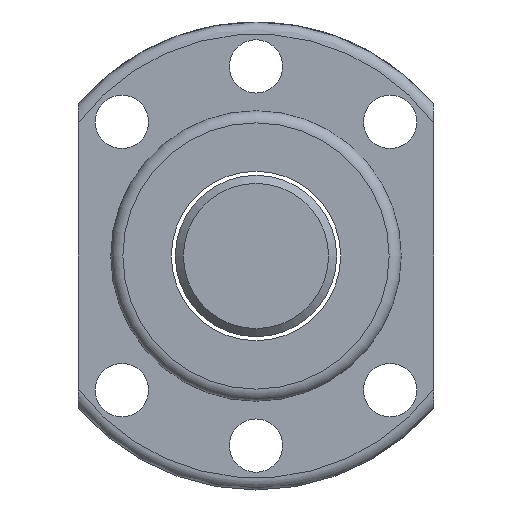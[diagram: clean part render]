
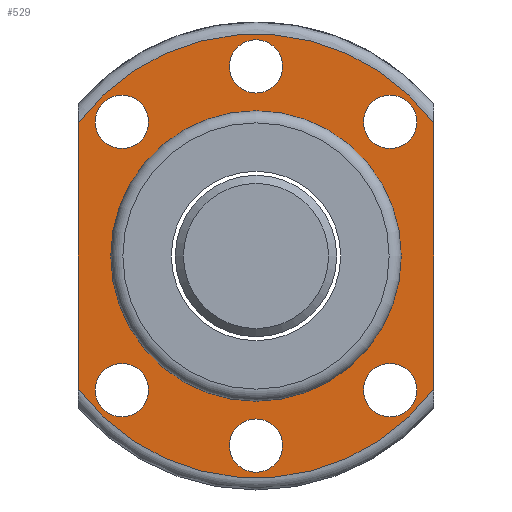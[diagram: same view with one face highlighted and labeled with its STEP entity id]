
A CAD part, left-side view. The second image highlights one B-rep face of the part: STEP entity #529.
In plain terms, the highlighted planar face has unit normal (-1, 0, 0).
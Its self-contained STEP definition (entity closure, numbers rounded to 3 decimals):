
#122=LINE('',#934,#130);
#123=LINE('',#935,#131);
#130=VECTOR('',#719,1000.);
#131=VECTOR('',#720,1000.);
#171=ORIENTED_EDGE('',*,*,#283,.T.);
#172=ORIENTED_EDGE('',*,*,#284,.T.);
#173=ORIENTED_EDGE('',*,*,#285,.T.);
#174=ORIENTED_EDGE('',*,*,#286,.T.);
#175=ORIENTED_EDGE('',*,*,#287,.T.);
#176=ORIENTED_EDGE('',*,*,#288,.T.);
#177=ORIENTED_EDGE('',*,*,#289,.F.);
#178=ORIENTED_EDGE('',*,*,#290,.F.);
#179=ORIENTED_EDGE('',*,*,#265,.T.);
#180=ORIENTED_EDGE('',*,*,#291,.T.);
#181=ORIENTED_EDGE('',*,*,#263,.T.);
#263=EDGE_CURVE('',#323,#322,#366,.T.);
#265=EDGE_CURVE('',#324,#325,#367,.T.);
#283=EDGE_CURVE('',#336,#336,#371,.T.);
#284=EDGE_CURVE('',#337,#337,#372,.T.);
#285=EDGE_CURVE('',#338,#338,#373,.T.);
#286=EDGE_CURVE('',#339,#339,#374,.T.);
#287=EDGE_CURVE('',#340,#340,#375,.T.);
#288=EDGE_CURVE('',#341,#341,#376,.T.);
#289=EDGE_CURVE('',#342,#342,#377,.T.);
#290=EDGE_CURVE('',#324,#322,#122,.T.);
#291=EDGE_CURVE('',#325,#323,#123,.T.);
#322=VERTEX_POINT('',#827);
#323=VERTEX_POINT('',#829);
#324=VERTEX_POINT('',#838);
#325=VERTEX_POINT('',#839);
#336=VERTEX_POINT('',#921);
#337=VERTEX_POINT('',#923);
#338=VERTEX_POINT('',#925);
#339=VERTEX_POINT('',#927);
#340=VERTEX_POINT('',#929);
#341=VERTEX_POINT('',#931);
#342=VERTEX_POINT('',#933);
#366=CIRCLE('',#596,27.5);
#367=CIRCLE('',#598,27.5);
#371=CIRCLE('',#607,3.3);
#372=CIRCLE('',#608,3.3);
#373=CIRCLE('',#609,3.3);
#374=CIRCLE('',#610,3.3);
#375=CIRCLE('',#611,3.3);
#376=CIRCLE('',#612,3.3);
#377=CIRCLE('',#613,18.);
#403=EDGE_LOOP('',(#171));
#404=EDGE_LOOP('',(#172));
#405=EDGE_LOOP('',(#173));
#406=EDGE_LOOP('',(#174));
#407=EDGE_LOOP('',(#175));
#408=EDGE_LOOP('',(#176));
#409=EDGE_LOOP('',(#177));
#410=EDGE_LOOP('',(#178,#179,#180,#181));
#465=FACE_BOUND('',#403,.T.);
#466=FACE_BOUND('',#404,.T.);
#467=FACE_BOUND('',#405,.T.);
#468=FACE_BOUND('',#406,.T.);
#469=FACE_BOUND('',#407,.T.);
#470=FACE_BOUND('',#408,.T.);
#471=FACE_BOUND('',#409,.T.);
#472=FACE_BOUND('',#410,.T.);
#513=PLANE('',#606);
#529=ADVANCED_FACE('',(#465,#466,#467,#468,#469,#470,#471,#472),#513,.F.);
#596=AXIS2_PLACEMENT_3D('',#828,#679,#680);
#598=AXIS2_PLACEMENT_3D('',#837,#683,#684);
#606=AXIS2_PLACEMENT_3D('',#919,#703,#704);
#607=AXIS2_PLACEMENT_3D('',#920,#705,#706);
#608=AXIS2_PLACEMENT_3D('',#922,#707,#708);
#609=AXIS2_PLACEMENT_3D('',#924,#709,#710);
#610=AXIS2_PLACEMENT_3D('',#926,#711,#712);
#611=AXIS2_PLACEMENT_3D('',#928,#713,#714);
#612=AXIS2_PLACEMENT_3D('',#930,#715,#716);
#613=AXIS2_PLACEMENT_3D('',#932,#717,#718);
#679=DIRECTION('',(-1.,0.,0.));
#680=DIRECTION('',(0.,-1.,0.));
#683=DIRECTION('',(-1.,0.,0.));
#684=DIRECTION('',(0.,-1.,0.));
#703=DIRECTION('',(1.,0.,0.));
#704=DIRECTION('',(0.,1.,0.));
#705=DIRECTION('',(1.,0.,0.));
#706=DIRECTION('',(0.,1.,0.));
#707=DIRECTION('',(1.,0.,0.));
#708=DIRECTION('',(0.,1.,0.));
#709=DIRECTION('',(1.,0.,0.));
#710=DIRECTION('',(0.,1.,0.));
#711=DIRECTION('',(1.,0.,0.));
#712=DIRECTION('',(0.,1.,0.));
#713=DIRECTION('',(1.,0.,0.));
#714=DIRECTION('',(0.,1.,0.));
#715=DIRECTION('',(1.,0.,0.));
#716=DIRECTION('',(0.,1.,0.));
#717=DIRECTION('',(-1.,0.,0.));
#718=DIRECTION('',(0.,-1.,0.));
#719=DIRECTION('',(0.,0.,-1.));
#720=DIRECTION('',(0.,0.,-1.));
#827=CARTESIAN_POINT('',(-25.,-22.,-16.5));
#828=CARTESIAN_POINT('',(-25.,0.,0.));
#829=CARTESIAN_POINT('',(-25.,22.,-16.5));
#837=CARTESIAN_POINT('',(-25.,0.,0.));
#838=CARTESIAN_POINT('',(-25.,-22.,16.5));
#839=CARTESIAN_POINT('',(-25.,22.,16.5));
#919=CARTESIAN_POINT('',(-25.,22.75,0.));
#920=CARTESIAN_POINT('',(-25.,16.62,16.62));
#921=CARTESIAN_POINT('',(-25.,19.92,16.62));
#922=CARTESIAN_POINT('',(-25.,16.62,-16.62));
#923=CARTESIAN_POINT('',(-25.,19.92,-16.62));
#924=CARTESIAN_POINT('',(-25.,0.,23.5));
#925=CARTESIAN_POINT('',(-25.,3.3,23.5));
#926=CARTESIAN_POINT('',(-25.,0.,-23.5));
#927=CARTESIAN_POINT('',(-25.,3.3,-23.5));
#928=CARTESIAN_POINT('',(-25.,-16.62,-16.62));
#929=CARTESIAN_POINT('',(-25.,-13.32,-16.62));
#930=CARTESIAN_POINT('',(-25.,-16.62,16.62));
#931=CARTESIAN_POINT('',(-25.,-13.32,16.62));
#932=CARTESIAN_POINT('',(-25.,0.,0.));
#933=CARTESIAN_POINT('',(-25.,-18.,0.));
#934=CARTESIAN_POINT('',(-25.,-22.,0.));
#935=CARTESIAN_POINT('',(-25.,22.,0.));
